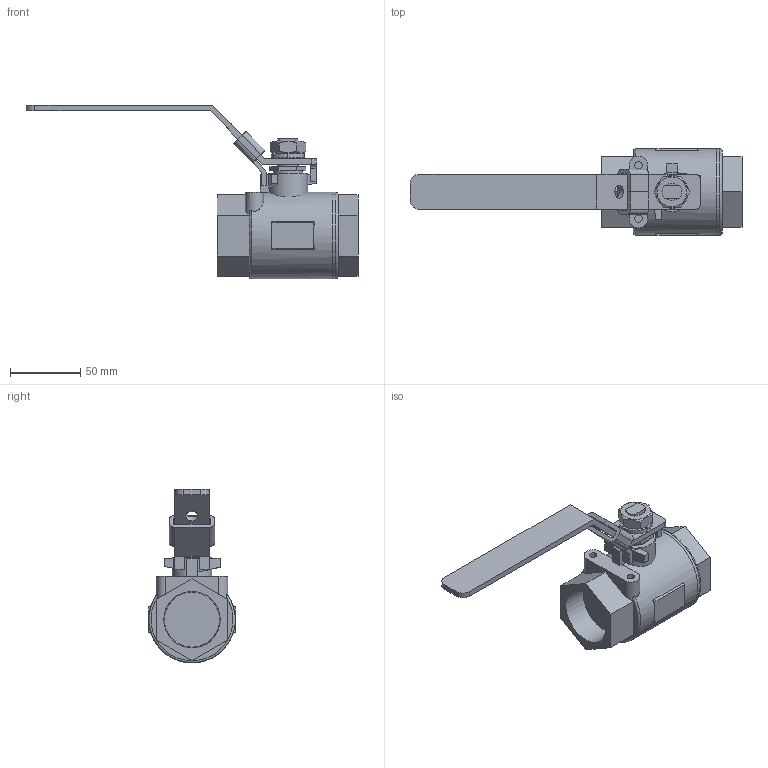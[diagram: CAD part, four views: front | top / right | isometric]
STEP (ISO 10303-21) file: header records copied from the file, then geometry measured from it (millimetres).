
FILE_DESCRIPTION((' '),'2;1');
FILE_NAME('N:\Technical Support\Private\Jomar Valve CAD\Ball Valves\CS and SS\1001N\1.25 T-CS[SS]-1001N (100-976[966])FusionCopy.stp.step','2016-07-05T12:02:33',(' '),(' '),' ','ACIS',' ');
FILE_SCHEMA(('CONFIG_CONTROL_DESIGN'));
Length unit declared in the file: inch
Products named in the file (9): N:\Technical Support\Private\Jomar Valve CAD\Ball Valves\CS and SS\1001N\1.25 T-CS[SS]-1001N (100-976[966])FusionCopy.stp.step; Body1; Body2; Body3; Body4; Body5; Body6; Body7; Body8
Assembly tree (8 placements, depth 2):
  N:\Technical Support\Private\Jomar Valve CAD\Ball Valves\CS and SS\1001N\1.25 T-CS[SS]-1001N (100-976[966])FusionCopy.stp.step
    Body1
    Body2
    Body3
    Body4
    Body5
    Body6
    Body7
    Body8
Bounding box: 236.21 x 61.59 x 123.71 mm (x, y, z)
Volume: 274329.2 mm3; surface area: 60086.7 mm2
Topology: 8 solids, 8 shells, 169 faces, 422 edges, 276 vertices
Faces by surface type: plane 104, cylinder 30, bspline 22, cone 11, torus 2
Full cylindrical faces by diameter (mm): 5.334 x2, 8.966 x1, 12.344 x1, 14.986 x1, 15.367 x1, 20.701 x1, 28.042 x1, 61.595 x2
Entity records: 6241 total; most frequent: CARTESIAN_POINT 1058, ORIENTED_EDGE 800, DIRECTION 798, EDGE_CURVE 400, VECTOR 290, LINE 290, VERTEX_POINT 270, AXIS2_PLACEMENT_3D 254
